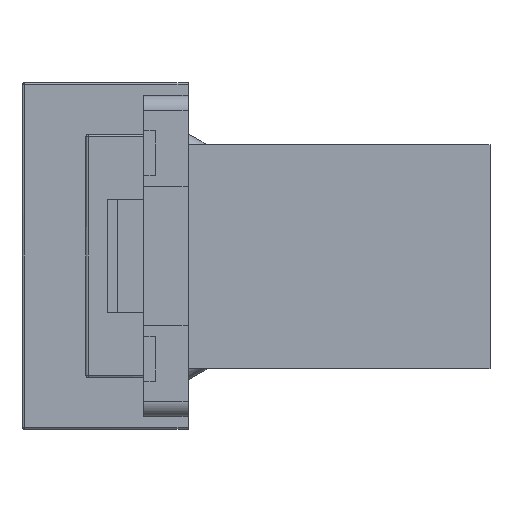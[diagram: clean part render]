
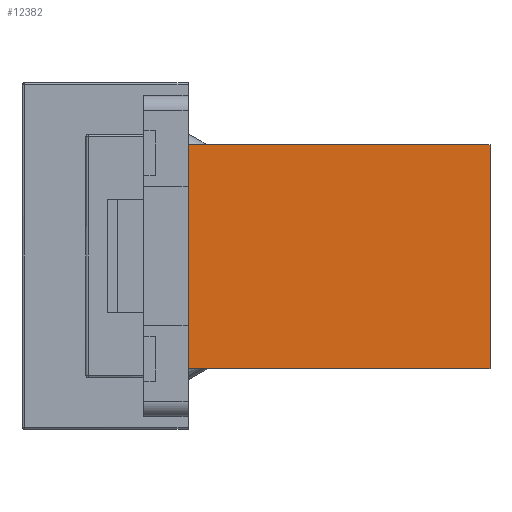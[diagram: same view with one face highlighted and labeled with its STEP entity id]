
A CAD part, front view. The second image highlights one B-rep face of the part: STEP entity #12382.
In plain terms, the highlighted free-form (B-spline) face has degree [1, 1] with [2, 2] control points.
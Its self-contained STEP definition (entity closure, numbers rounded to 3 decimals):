
#7404 = EDGE_CURVE('',#7405,#7407,#7409,.T.);
#7405 = VERTEX_POINT('',#7406);
#7406 = CARTESIAN_POINT('',(30.,0.,0.));
#7407 = VERTEX_POINT('',#7408);
#7408 = CARTESIAN_POINT('',(0.,0.,0.));
#7409 = B_SPLINE_CURVE_WITH_KNOTS('',5,(#7410,#7411,#7412,#7413,#7414,
    #7415),.UNSPECIFIED.,.F.,.F.,(6,6),(0.,30.),
  .PIECEWISE_BEZIER_KNOTS.);
#7410 = CARTESIAN_POINT('',(30.,0.,0.));
#7411 = CARTESIAN_POINT('',(24.,0.,0.));
#7412 = CARTESIAN_POINT('',(18.,0.,0.));
#7413 = CARTESIAN_POINT('',(12.,0.,0.));
#7414 = CARTESIAN_POINT('',(6.,0.,0.));
#7415 = CARTESIAN_POINT('',(0.,0.,0.));
#9435 = VERTEX_POINT('',#9436);
#9436 = CARTESIAN_POINT('',(8.139,3.256,0.));
#9447 = VERTEX_POINT('',#9448);
#9448 = CARTESIAN_POINT('',(8.139,11.369,0.));
#9457 = EDGE_CURVE('',#9435,#9447,#9458,.T.);
#9458 = B_SPLINE_CURVE_WITH_KNOTS('',5,(#9459,#9460,#9461,#9462,#9463,
    #9464),.UNSPECIFIED.,.F.,.F.,(6,6),(0.,8.113),
  .PIECEWISE_BEZIER_KNOTS.);
#9459 = CARTESIAN_POINT('',(8.139,3.256,0.));
#9460 = CARTESIAN_POINT('',(8.139,4.878,0.));
#9461 = CARTESIAN_POINT('',(8.139,6.501,0.));
#9462 = CARTESIAN_POINT('',(8.139,8.124,0.));
#9463 = CARTESIAN_POINT('',(8.139,9.746,0.));
#9464 = CARTESIAN_POINT('',(8.139,11.369,0.));
#9475 = VERTEX_POINT('',#9476);
#9476 = CARTESIAN_POINT('',(6.556,3.256,0.));
#9485 = EDGE_CURVE('',#9486,#9475,#9488,.T.);
#9486 = VERTEX_POINT('',#9487);
#9487 = CARTESIAN_POINT('',(6.556,11.369,0.));
#9488 = B_SPLINE_CURVE_WITH_KNOTS('',5,(#9489,#9490,#9491,#9492,#9493,
    #9494),.UNSPECIFIED.,.F.,.F.,(6,6),(0.,8.113),
  .PIECEWISE_BEZIER_KNOTS.);
#9489 = CARTESIAN_POINT('',(6.556,11.369,0.));
#9490 = CARTESIAN_POINT('',(6.556,9.746,0.));
#9491 = CARTESIAN_POINT('',(6.556,8.124,0.));
#9492 = CARTESIAN_POINT('',(6.556,6.501,0.));
#9493 = CARTESIAN_POINT('',(6.556,4.878,0.));
#9494 = CARTESIAN_POINT('',(6.556,3.256,0.));
#9517 = EDGE_CURVE('',#9475,#9435,#9518,.T.);
#9518 = B_SPLINE_CURVE_WITH_KNOTS('',5,(#9519,#9520,#9521,#9522,#9523,
    #9524),.UNSPECIFIED.,.F.,.F.,(6,6),(0.,1.583),
  .PIECEWISE_BEZIER_KNOTS.);
#9519 = CARTESIAN_POINT('',(6.556,3.256,0.));
#9520 = CARTESIAN_POINT('',(6.872,3.256,0.));
#9521 = CARTESIAN_POINT('',(7.189,3.256,0.));
#9522 = CARTESIAN_POINT('',(7.505,3.256,0.));
#9523 = CARTESIAN_POINT('',(7.822,3.256,0.));
#9524 = CARTESIAN_POINT('',(8.139,3.256,0.));
#9535 = EDGE_CURVE('',#9447,#9486,#9536,.T.);
#9536 = B_SPLINE_CURVE_WITH_KNOTS('',5,(#9537,#9538,#9539,#9540,#9541,
    #9542),.UNSPECIFIED.,.F.,.F.,(6,6),(0.,1.583),
  .PIECEWISE_BEZIER_KNOTS.);
#9537 = CARTESIAN_POINT('',(8.139,11.369,0.));
#9538 = CARTESIAN_POINT('',(7.822,11.369,0.));
#9539 = CARTESIAN_POINT('',(7.505,11.369,0.));
#9540 = CARTESIAN_POINT('',(7.189,11.369,0.));
#9541 = CARTESIAN_POINT('',(6.872,11.369,0.));
#9542 = CARTESIAN_POINT('',(6.556,11.369,0.));
#9557 = VERTEX_POINT('',#9558);
#9558 = CARTESIAN_POINT('',(5.609,3.256,0.));
#9567 = EDGE_CURVE('',#9568,#9557,#9570,.T.);
#9568 = VERTEX_POINT('',#9569);
#9569 = CARTESIAN_POINT('',(5.609,11.369,0.));
#9570 = B_SPLINE_CURVE_WITH_KNOTS('',5,(#9571,#9572,#9573,#9574,#9575,
    #9576),.UNSPECIFIED.,.F.,.F.,(6,6),(0.,8.113),
  .PIECEWISE_BEZIER_KNOTS.);
#9571 = CARTESIAN_POINT('',(5.609,11.369,0.));
#9572 = CARTESIAN_POINT('',(5.609,9.746,0.));
#9573 = CARTESIAN_POINT('',(5.609,8.124,0.));
#9574 = CARTESIAN_POINT('',(5.609,6.501,0.));
#9575 = CARTESIAN_POINT('',(5.609,4.878,0.));
#9576 = CARTESIAN_POINT('',(5.609,3.256,0.));
#9647 = VERTEX_POINT('',#9648);
#9648 = CARTESIAN_POINT('',(5.957,3.256,0.));
#9659 = VERTEX_POINT('',#9660);
#9660 = CARTESIAN_POINT('',(5.957,11.369,0.));
#9669 = EDGE_CURVE('',#9647,#9659,#9670,.T.);
#9670 = B_SPLINE_CURVE_WITH_KNOTS('',5,(#9671,#9672,#9673,#9674,#9675,
    #9676),.UNSPECIFIED.,.F.,.F.,(6,6),(0.,8.113),
  .PIECEWISE_BEZIER_KNOTS.);
#9671 = CARTESIAN_POINT('',(5.957,3.256,0.));
#9672 = CARTESIAN_POINT('',(5.957,4.878,0.));
#9673 = CARTESIAN_POINT('',(5.957,6.501,0.));
#9674 = CARTESIAN_POINT('',(5.957,8.124,0.));
#9675 = CARTESIAN_POINT('',(5.957,9.746,0.));
#9676 = CARTESIAN_POINT('',(5.957,11.369,0.));
#9689 = EDGE_CURVE('',#9659,#9568,#9690,.T.);
#9690 = B_SPLINE_CURVE_WITH_KNOTS('',5,(#9691,#9692,#9693,#9694,#9695,
    #9696),.UNSPECIFIED.,.F.,.F.,(6,6),(0.,0.348),
  .PIECEWISE_BEZIER_KNOTS.);
#9691 = CARTESIAN_POINT('',(5.957,11.369,0.));
#9692 = CARTESIAN_POINT('',(5.888,11.369,0.));
#9693 = CARTESIAN_POINT('',(5.818,11.369,0.));
#9694 = CARTESIAN_POINT('',(5.749,11.369,0.));
#9695 = CARTESIAN_POINT('',(5.679,11.369,0.));
#9696 = CARTESIAN_POINT('',(5.609,11.369,0.));
#9707 = EDGE_CURVE('',#9557,#9647,#9708,.T.);
#9708 = B_SPLINE_CURVE_WITH_KNOTS('',5,(#9709,#9710,#9711,#9712,#9713,
    #9714),.UNSPECIFIED.,.F.,.F.,(6,6),(0.,0.348),
  .PIECEWISE_BEZIER_KNOTS.);
#9709 = CARTESIAN_POINT('',(5.609,3.256,0.));
#9710 = CARTESIAN_POINT('',(5.679,3.256,0.));
#9711 = CARTESIAN_POINT('',(5.749,3.256,0.));
#9712 = CARTESIAN_POINT('',(5.818,3.256,0.));
#9713 = CARTESIAN_POINT('',(5.888,3.256,0.));
#9714 = CARTESIAN_POINT('',(5.957,3.256,0.));
#12345 = VERTEX_POINT('',#12346);
#12346 = CARTESIAN_POINT('',(0.,14.624,0.));
#12355 = EDGE_CURVE('',#7407,#12345,#12356,.T.);
#12356 = B_SPLINE_CURVE_WITH_KNOTS('',5,(#12357,#12358,#12359,#12360,
    #12361,#12362),.UNSPECIFIED.,.F.,.F.,(6,6),(0.,14.624),
  .PIECEWISE_BEZIER_KNOTS.);
#12357 = CARTESIAN_POINT('',(0.,0.,0.));
#12358 = CARTESIAN_POINT('',(0.,2.925,0.));
#12359 = CARTESIAN_POINT('',(0.,5.85,0.));
#12360 = CARTESIAN_POINT('',(0.,8.775,0.));
#12361 = CARTESIAN_POINT('',(0.,11.7,0.));
#12362 = CARTESIAN_POINT('',(0.,14.624,0.));
#12382 = ADVANCED_FACE('',(#12383,#12407,#12413),#12419,.T.);
#12383 = FACE_BOUND('',#12384,.T.);
#12384 = EDGE_LOOP('',(#12385,#12386,#12387,#12398));
#12385 = ORIENTED_EDGE('',*,*,#7404,.T.);
#12386 = ORIENTED_EDGE('',*,*,#12355,.T.);
#12387 = ORIENTED_EDGE('',*,*,#12388,.F.);
#12388 = EDGE_CURVE('',#12389,#12345,#12391,.T.);
#12389 = VERTEX_POINT('',#12390);
#12390 = CARTESIAN_POINT('',(30.,14.624,0.));
#12391 = B_SPLINE_CURVE_WITH_KNOTS('',5,(#12392,#12393,#12394,#12395,
    #12396,#12397),.UNSPECIFIED.,.F.,.F.,(6,6),(0.,30.),
  .PIECEWISE_BEZIER_KNOTS.);
#12392 = CARTESIAN_POINT('',(30.,14.624,0.));
#12393 = CARTESIAN_POINT('',(24.,14.624,0.));
#12394 = CARTESIAN_POINT('',(18.,14.624,0.));
#12395 = CARTESIAN_POINT('',(12.,14.624,0.));
#12396 = CARTESIAN_POINT('',(6.,14.624,0.));
#12397 = CARTESIAN_POINT('',(0.,14.624,0.));
#12398 = ORIENTED_EDGE('',*,*,#12399,.F.);
#12399 = EDGE_CURVE('',#7405,#12389,#12400,.T.);
#12400 = B_SPLINE_CURVE_WITH_KNOTS('',5,(#12401,#12402,#12403,#12404,
    #12405,#12406),.UNSPECIFIED.,.F.,.F.,(6,6),(0.,14.624),
  .PIECEWISE_BEZIER_KNOTS.);
#12401 = CARTESIAN_POINT('',(30.,0.,0.));
#12402 = CARTESIAN_POINT('',(30.,2.925,0.));
#12403 = CARTESIAN_POINT('',(30.,5.85,0.));
#12404 = CARTESIAN_POINT('',(30.,8.775,0.));
#12405 = CARTESIAN_POINT('',(30.,11.7,0.));
#12406 = CARTESIAN_POINT('',(30.,14.624,0.));
#12407 = FACE_BOUND('',#12408,.T.);
#12408 = EDGE_LOOP('',(#12409,#12410,#12411,#12412));
#12409 = ORIENTED_EDGE('',*,*,#9485,.T.);
#12410 = ORIENTED_EDGE('',*,*,#9517,.T.);
#12411 = ORIENTED_EDGE('',*,*,#9457,.T.);
#12412 = ORIENTED_EDGE('',*,*,#9535,.T.);
#12413 = FACE_BOUND('',#12414,.T.);
#12414 = EDGE_LOOP('',(#12415,#12416,#12417,#12418));
#12415 = ORIENTED_EDGE('',*,*,#9669,.T.);
#12416 = ORIENTED_EDGE('',*,*,#9689,.T.);
#12417 = ORIENTED_EDGE('',*,*,#9567,.T.);
#12418 = ORIENTED_EDGE('',*,*,#9707,.T.);
#12419 = B_SPLINE_SURFACE_WITH_KNOTS('',1,1,(
    (#12420,#12421)
    ,(#12422,#12423
    )),.UNSPECIFIED.,.F.,.F.,.F.,(2,2),(2,2),(0.,2.051),(0.,1.),
  .PIECEWISE_BEZIER_KNOTS.);
#12420 = CARTESIAN_POINT('',(30.,-0.,-0.));
#12421 = CARTESIAN_POINT('',(30.,14.624,0.));
#12422 = CARTESIAN_POINT('',(0.,-0.,-0.));
#12423 = CARTESIAN_POINT('',(0.,14.624,0.));
